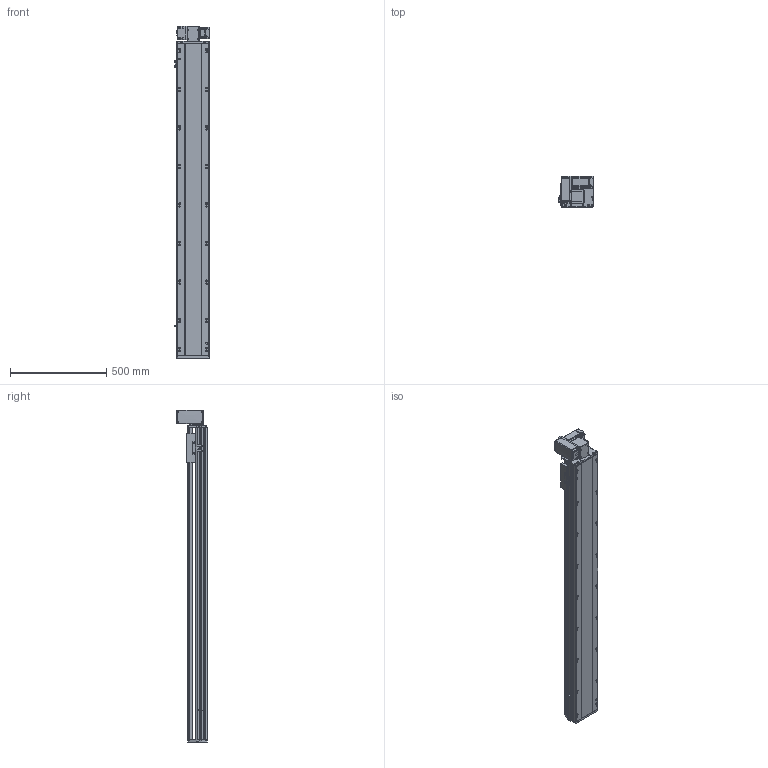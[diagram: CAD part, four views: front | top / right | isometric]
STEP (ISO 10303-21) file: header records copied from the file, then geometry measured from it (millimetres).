
FILE_DESCRIPTION (( 'STEP AP214' ), '1' );
FILE_NAME ('RTB17S-XX-1350-LW-M40-C4.STEP', '2025-12-11T07:06:57', ( '' ), ( '' ), 'SwSTEP 2.0', 'SolidWorks 2018', '' );
FILE_SCHEMA (( 'AUTOMOTIVE_DESIGN' ));
Length unit declared in the file: millimetre
Products named in the file (14): RTB14-L-018P^RTB17S-LW-々湍釱蚾饜-400W_RTB17S-XX-XX-LW-M40-C4; RTB14-L-008-M20--萇儂啣^RTB17S-LW-々湍釱蚾饜-400W_RTB17S-XX-XX-LW-M40-C4; RTB17S-L-014-T20--々湍釱^RTB17S-LW-々湍釱蚾饜-400W_RTB17S-XX-XX-LW-M40-C4; 400W侜督萇儂^RTB17S-XX-XX-LW-M40-C4; RTB17S-LW-々湍釱蚾饜-400W^RTB17S-XX-XX-LW-M40-C4; RTB14-L-017P^RTB17S-LW-々湍釱蚾饜-400W_RTB17S-XX-XX-LW-M40-C4; RTB17S-L-001耜醱啣^RTB17S-XX-XX-LW-M40-C4; OMRON EE-SX672 传感器^RTB17S-XX-XX-LW-M40-C4; RTB17-R-011菁釱^RTB17S-XX-XX-LW-M40-C4; RTB17S-XX-1350-LW-M40-C4; RTB17S-L-007奻裔^RTB17S-XX-XX-LW-M40-C4; RTB14-L-005P--轴承塑胶压盖^RTB17S-LW-皮带座装配-400W_RTB17S-XX-XX-LW-M40-C4; RTH13-BL-012覜茼え俋离^RTB17S-XX-XX-LW-M40-C4; RTB17S-L-004佪裝蹟譫蟀諉釱^RTB17S-XX-XX-LW-M40-C4
Assembly tree (16 placements, depth 3):
  RTB17S-XX-1350-LW-M40-C4
    RTB17-R-011菁釱^RTB17S-XX-XX-LW-M40-C4
    RTB17S-L-007奻裔^RTB17S-XX-XX-LW-M40-C4
    OMRON EE-SX672 传感器^RTB17S-XX-XX-LW-M40-C4  x3
    RTB17S-L-001耜醱啣^RTB17S-XX-XX-LW-M40-C4
    400W侜督萇儂^RTB17S-XX-XX-LW-M40-C4
    RTB17S-L-004佪裝蹟譫蟀諉釱^RTB17S-XX-XX-LW-M40-C4
    RTH13-BL-012覜茼え俋离^RTB17S-XX-XX-LW-M40-C4
    RTB17S-LW-々湍釱蚾饜-400W^RTB17S-XX-XX-LW-M40-C4
      RTB17S-L-014-T20--々湍釱^RTB17S-LW-々湍釱蚾饜-400W_RTB17S-XX-XX-LW-M40-C4
      RTB14-L-005P--轴承塑胶压盖^RTB17S-LW-皮带座装配-400W_RTB17S-XX-XX-LW-M40-C4
      RTB14-L-008-M20--萇儂啣^RTB17S-LW-々湍釱蚾饜-400W_RTB17S-XX-XX-LW-M40-C4
      RTB14-L-017P^RTB17S-LW-々湍釱蚾饜-400W_RTB17S-XX-XX-LW-M40-C4  x2
      RTB14-L-018P^RTB17S-LW-々湍釱蚾饜-400W_RTB17S-XX-XX-LW-M40-C4
Bounding box: 186 x 160.5 x 1722.5 mm (x, y, z)
Volume: 15228583 mm3; surface area: 1809316.8 mm2
Topology: 15 solids, 15 shells, 2237 faces, 6195 edges, 4041 vertices
Faces by surface type: plane 1072, cylinder 717, bspline 301, cone 139, torus 8
Entity records: 64169 total; most frequent: CARTESIAN_POINT 18000, ORIENTED_EDGE 9234, DIRECTION 8576, EDGE_CURVE 4617, VERTEX_POINT 3029, AXIS2_PLACEMENT_3D 2959, LINE 2658, VECTOR 2658
